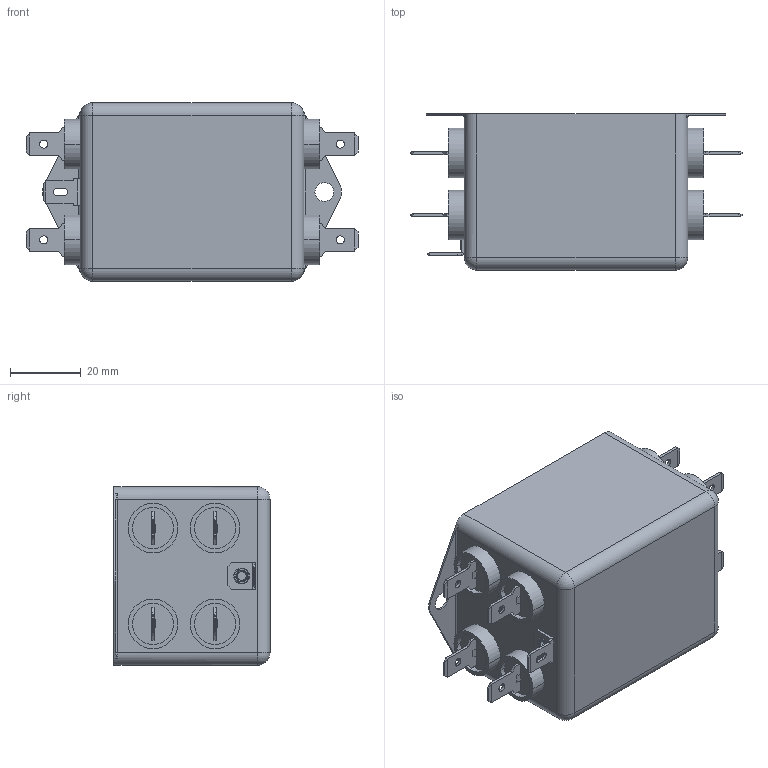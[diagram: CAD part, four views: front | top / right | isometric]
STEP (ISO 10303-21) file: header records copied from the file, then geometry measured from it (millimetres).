
FILE_DESCRIPTION (( 'STEP AP214' ), '1' );
FILE_NAME ('NF-4-6-SD.step', '2023-03-09T08:56:05', ( '' ), ( '' ), 'SwSTEP 2.0', 'SolidWorks 2021', '' );
FILE_SCHEMA (( 'AUTOMOTIVE_DESIGN' ));
Length unit declared in the file: millimetre
Products named in the file (8): 3350461800; NF-4-10-SD(2); NF-4-6-SD; 3240034600; REVIT; 3350190000; 3240034700; 332002260001
Assembly tree (28 placements, depth 3):
  NF-4-6-SD
    NF-4-10-SD(2)
      3350461800  x8
      3240034600  x8
      332002260001
      3240034700  x8
      3350190000
      REVIT
Bounding box: 93.6 x 44 x 50.3 mm (x, y, z)
Volume: 148676 mm3; surface area: 54400.9 mm2
Topology: 28 solids, 28 shells, 849 faces, 2031 edges, 1256 vertices
Faces by surface type: plane 626, cylinder 195, torus 14, sphere 12, bspline 2
Entity records: 8680 total; most frequent: CARTESIAN_POINT 1399, DIRECTION 1287, ORIENTED_EDGE 1174, EDGE_CURVE 587, AXIS2_PLACEMENT_3D 435, VECTOR 417, LINE 417, VERTEX_POINT 360
